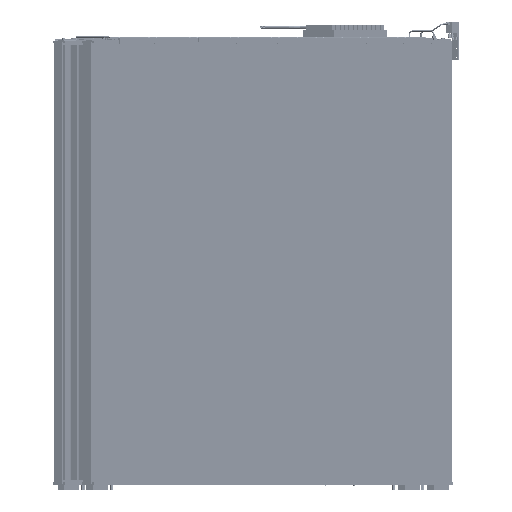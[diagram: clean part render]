
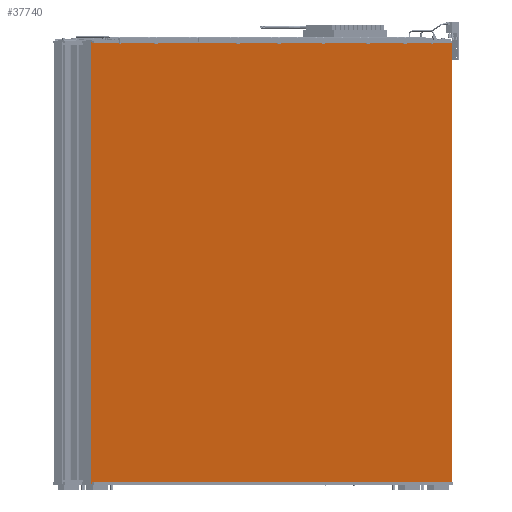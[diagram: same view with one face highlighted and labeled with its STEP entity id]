
A CAD part, left-side view. The second image highlights one B-rep face of the part: STEP entity #37740.
In plain terms, the highlighted planar face has unit normal (-0.5, -0.866, 0).
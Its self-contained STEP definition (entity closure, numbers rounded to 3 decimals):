
#37740=ADVANCED_FACE('',(#54063),#47074,.T.);
#47074=PLANE('',#209961);
#54063=FACE_OUTER_BOUND('',#65265,.T.);
#65265=EDGE_LOOP('',(#97290,#97291,#97292,#97293));
#97290=ORIENTED_EDGE('',*,*,#153941,.F.);
#97291=ORIENTED_EDGE('',*,*,#153942,.F.);
#97292=ORIENTED_EDGE('',*,*,#153943,.F.);
#97293=ORIENTED_EDGE('',*,*,#153944,.F.);
#132487=VERTEX_POINT('',#307841);
#132488=VERTEX_POINT('',#307842);
#132489=VERTEX_POINT('',#307844);
#132490=VERTEX_POINT('',#307846);
#153941=EDGE_CURVE('',#132487,#132488,#175608,.T.);
#153942=EDGE_CURVE('',#132489,#132487,#175609,.T.);
#153943=EDGE_CURVE('',#132490,#132489,#175610,.T.);
#153944=EDGE_CURVE('',#132488,#132490,#175611,.T.);
#175608=LINE('',#307840,#191739);
#175609=LINE('',#307843,#191740);
#175610=LINE('',#307845,#191741);
#175611=LINE('',#307847,#191742);
#191739=VECTOR('',#244340,1.);
#191740=VECTOR('',#244341,1.);
#191741=VECTOR('',#244342,1.);
#191742=VECTOR('',#244343,1.);
#209961=AXIS2_PLACEMENT_3D('',#307848,#244344,#244345);
#244340=DIRECTION('',(-0.866,0.5,0.));
#244341=DIRECTION('',(0.,0.,-1.));
#244342=DIRECTION('',(0.866,-0.5,0.));
#244343=DIRECTION('',(0.,0.,1.));
#244344=DIRECTION('',(-0.5,-0.866,0.));
#244345=DIRECTION('',(0.866,-0.5,0.));
#307840=CARTESIAN_POINT('',(4323.331,5674.335,4085.5));
#307841=CARTESIAN_POINT('',(6090.897,4653.849,4085.5));
#307842=CARTESIAN_POINT('',(2555.765,6694.821,4085.5));
#307843=CARTESIAN_POINT('',(6090.897,4653.849,5333.5));
#307844=CARTESIAN_POINT('',(6090.897,4653.849,6581.5));
#307845=CARTESIAN_POINT('',(4323.331,5674.335,6581.5));
#307846=CARTESIAN_POINT('',(2555.765,6694.821,6581.5));
#307847=CARTESIAN_POINT('',(2555.765,6694.821,5333.5));
#307848=CARTESIAN_POINT('',(2555.765,6694.821,4085.5));
